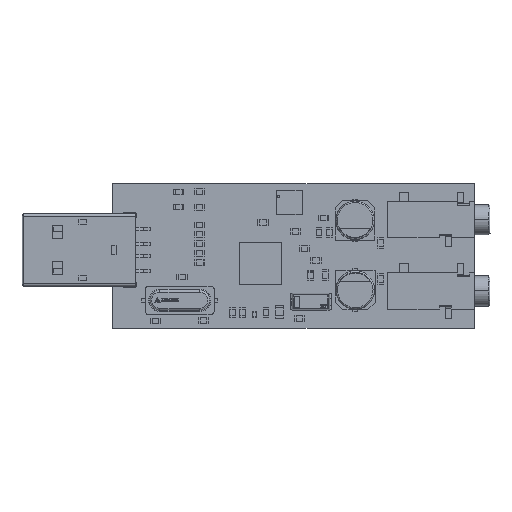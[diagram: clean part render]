
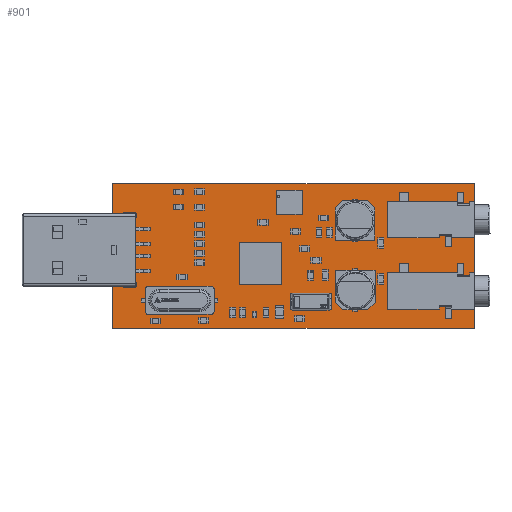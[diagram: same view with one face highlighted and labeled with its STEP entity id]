
A CAD part, top view. The second image highlights one B-rep face of the part: STEP entity #901.
In plain terms, the highlighted planar face has unit normal (0, 0, 1).
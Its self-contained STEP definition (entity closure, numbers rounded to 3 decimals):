
#288 = VERTEX_POINT('',#289);
#289 = CARTESIAN_POINT('',(0.,0.,1.598));
#295 = EDGE_CURVE('',#288,#296,#298,.T.);
#296 = VERTEX_POINT('',#297);
#297 = CARTESIAN_POINT('',(60.,0.,1.598));
#298 = LINE('',#299,#300);
#299 = CARTESIAN_POINT('',(0.,0.,1.598));
#300 = VECTOR('',#301,1.);
#301 = DIRECTION('',(1.,0.,0.));
#326 = EDGE_CURVE('',#296,#327,#329,.T.);
#327 = VERTEX_POINT('',#328);
#328 = CARTESIAN_POINT('',(60.,24.,1.598));
#329 = LINE('',#330,#331);
#330 = CARTESIAN_POINT('',(60.,0.,1.598));
#331 = VECTOR('',#332,1.);
#332 = DIRECTION('',(0.,1.,0.));
#357 = EDGE_CURVE('',#327,#358,#360,.T.);
#358 = VERTEX_POINT('',#359);
#359 = CARTESIAN_POINT('',(0.,24.,1.598));
#360 = LINE('',#361,#362);
#361 = CARTESIAN_POINT('',(60.,24.,1.598));
#362 = VECTOR('',#363,1.);
#363 = DIRECTION('',(-1.,0.,0.));
#388 = EDGE_CURVE('',#358,#288,#389,.T.);
#389 = LINE('',#390,#391);
#390 = CARTESIAN_POINT('',(0.,24.,1.598));
#391 = VECTOR('',#392,1.);
#392 = DIRECTION('',(0.,-1.,0.));
#412 = VERTEX_POINT('',#413);
#413 = CARTESIAN_POINT('',(3.314,10.752,1.598));
#419 = EDGE_CURVE('',#412,#412,#420,.T.);
#420 = CIRCLE('',#421,0.546);
#421 = AXIS2_PLACEMENT_3D('',#422,#423,#424);
#422 = CARTESIAN_POINT('',(2.768,10.752,1.598));
#423 = DIRECTION('',(0.,0.,1.));
#424 = DIRECTION('',(1.,0.,0.));
#445 = VERTEX_POINT('',#446);
#446 = CARTESIAN_POINT('',(2.018,6.785,1.598));
#452 = EDGE_CURVE('',#445,#453,#455,.T.);
#453 = VERTEX_POINT('',#454);
#454 = CARTESIAN_POINT('',(3.518,6.785,1.598));
#455 = LINE('',#456,#457);
#456 = CARTESIAN_POINT('',(2.018,6.785,1.598));
#457 = VECTOR('',#458,1.);
#458 = DIRECTION('',(1.,0.,0.));
#483 = EDGE_CURVE('',#453,#484,#486,.T.);
#484 = VERTEX_POINT('',#485);
#485 = CARTESIAN_POINT('',(3.518,7.785,1.598));
#486 = CIRCLE('',#487,0.5);
#487 = AXIS2_PLACEMENT_3D('',#488,#489,#490);
#488 = CARTESIAN_POINT('',(3.518,7.285,1.598));
#489 = DIRECTION('',(0.,0.,1.));
#490 = DIRECTION('',(0.,-1.,0.));
#516 = EDGE_CURVE('',#484,#517,#519,.T.);
#517 = VERTEX_POINT('',#518);
#518 = CARTESIAN_POINT('',(2.018,7.785,1.598));
#519 = LINE('',#520,#521);
#520 = CARTESIAN_POINT('',(3.518,7.785,1.598));
#521 = VECTOR('',#522,1.);
#522 = DIRECTION('',(-1.,0.,0.));
#547 = EDGE_CURVE('',#517,#445,#548,.T.);
#548 = CIRCLE('',#549,0.5);
#549 = AXIS2_PLACEMENT_3D('',#550,#551,#552);
#550 = CARTESIAN_POINT('',(2.018,7.285,1.598));
#551 = DIRECTION('',(0.,0.,1.));
#552 = DIRECTION('',(0.,1.,0.));
#573 = VERTEX_POINT('',#574);
#574 = CARTESIAN_POINT('',(3.314,15.248,1.598));
#580 = EDGE_CURVE('',#573,#573,#581,.T.);
#581 = CIRCLE('',#582,0.546);
#582 = AXIS2_PLACEMENT_3D('',#583,#584,#585);
#583 = CARTESIAN_POINT('',(2.768,15.248,1.598));
#584 = DIRECTION('',(0.,0.,1.));
#585 = DIRECTION('',(1.,0.,0.));
#606 = VERTEX_POINT('',#607);
#607 = CARTESIAN_POINT('',(2.018,18.215,1.598));
#613 = EDGE_CURVE('',#606,#614,#616,.T.);
#614 = VERTEX_POINT('',#615);
#615 = CARTESIAN_POINT('',(3.518,18.215,1.598));
#616 = LINE('',#617,#618);
#617 = CARTESIAN_POINT('',(2.018,18.215,1.598));
#618 = VECTOR('',#619,1.);
#619 = DIRECTION('',(1.,0.,0.));
#644 = EDGE_CURVE('',#614,#645,#647,.T.);
#645 = VERTEX_POINT('',#646);
#646 = CARTESIAN_POINT('',(3.518,19.215,1.598));
#647 = CIRCLE('',#648,0.5);
#648 = AXIS2_PLACEMENT_3D('',#649,#650,#651);
#649 = CARTESIAN_POINT('',(3.518,18.715,1.598));
#650 = DIRECTION('',(0.,0.,1.));
#651 = DIRECTION('',(0.,-1.,0.));
#677 = EDGE_CURVE('',#645,#678,#680,.T.);
#678 = VERTEX_POINT('',#679);
#679 = CARTESIAN_POINT('',(2.018,19.215,1.598));
#680 = LINE('',#681,#682);
#681 = CARTESIAN_POINT('',(3.518,19.215,1.598));
#682 = VECTOR('',#683,1.);
#683 = DIRECTION('',(-1.,0.,0.));
#708 = EDGE_CURVE('',#678,#606,#709,.T.);
#709 = CIRCLE('',#710,0.5);
#710 = AXIS2_PLACEMENT_3D('',#711,#712,#713);
#711 = CARTESIAN_POINT('',(2.018,18.715,1.598));
#712 = DIRECTION('',(0.,0.,1.));
#713 = DIRECTION('',(0.,1.,0.));
#734 = VERTEX_POINT('',#735);
#735 = CARTESIAN_POINT('',(50.45,6.185,1.598));
#741 = EDGE_CURVE('',#734,#734,#742,.T.);
#742 = CIRCLE('',#743,0.85);
#743 = AXIS2_PLACEMENT_3D('',#744,#745,#746);
#744 = CARTESIAN_POINT('',(49.6,6.185,1.598));
#745 = DIRECTION('',(0.,0.,1.));
#746 = DIRECTION('',(1.,0.,0.));
#767 = VERTEX_POINT('',#768);
#768 = CARTESIAN_POINT('',(57.45,6.185,1.598));
#774 = EDGE_CURVE('',#767,#767,#775,.T.);
#775 = CIRCLE('',#776,0.85);
#776 = AXIS2_PLACEMENT_3D('',#777,#778,#779);
#777 = CARTESIAN_POINT('',(56.6,6.185,1.598));
#778 = DIRECTION('',(0.,0.,1.));
#779 = DIRECTION('',(1.,0.,0.));
#800 = VERTEX_POINT('',#801);
#801 = CARTESIAN_POINT('',(50.45,18.01,1.598));
#807 = EDGE_CURVE('',#800,#800,#808,.T.);
#808 = CIRCLE('',#809,0.85);
#809 = AXIS2_PLACEMENT_3D('',#810,#811,#812);
#810 = CARTESIAN_POINT('',(49.6,18.01,1.598));
#811 = DIRECTION('',(0.,0.,1.));
#812 = DIRECTION('',(1.,0.,0.));
#833 = VERTEX_POINT('',#834);
#834 = CARTESIAN_POINT('',(57.45,18.01,1.598));
#840 = EDGE_CURVE('',#833,#833,#841,.T.);
#841 = CIRCLE('',#842,0.85);
#842 = AXIS2_PLACEMENT_3D('',#843,#844,#845);
#843 = CARTESIAN_POINT('',(56.6,18.01,1.598));
#844 = DIRECTION('',(0.,0.,1.));
#845 = DIRECTION('',(1.,0.,0.));
#901 = ADVANCED_FACE('',(#902,#908,#911,#917,#920,#926,#929,#932,#935),
  #938,.F.);
#902 = FACE_BOUND('',#903,.T.);
#903 = EDGE_LOOP('',(#904,#905,#906,#907));
#904 = ORIENTED_EDGE('',*,*,#295,.T.);
#905 = ORIENTED_EDGE('',*,*,#326,.T.);
#906 = ORIENTED_EDGE('',*,*,#357,.T.);
#907 = ORIENTED_EDGE('',*,*,#388,.T.);
#908 = FACE_BOUND('',#909,.F.);
#909 = EDGE_LOOP('',(#910));
#910 = ORIENTED_EDGE('',*,*,#419,.T.);
#911 = FACE_BOUND('',#912,.F.);
#912 = EDGE_LOOP('',(#913,#914,#915,#916));
#913 = ORIENTED_EDGE('',*,*,#452,.T.);
#914 = ORIENTED_EDGE('',*,*,#483,.T.);
#915 = ORIENTED_EDGE('',*,*,#516,.T.);
#916 = ORIENTED_EDGE('',*,*,#547,.T.);
#917 = FACE_BOUND('',#918,.F.);
#918 = EDGE_LOOP('',(#919));
#919 = ORIENTED_EDGE('',*,*,#580,.T.);
#920 = FACE_BOUND('',#921,.F.);
#921 = EDGE_LOOP('',(#922,#923,#924,#925));
#922 = ORIENTED_EDGE('',*,*,#613,.T.);
#923 = ORIENTED_EDGE('',*,*,#644,.T.);
#924 = ORIENTED_EDGE('',*,*,#677,.T.);
#925 = ORIENTED_EDGE('',*,*,#708,.T.);
#926 = FACE_BOUND('',#927,.F.);
#927 = EDGE_LOOP('',(#928));
#928 = ORIENTED_EDGE('',*,*,#741,.T.);
#929 = FACE_BOUND('',#930,.F.);
#930 = EDGE_LOOP('',(#931));
#931 = ORIENTED_EDGE('',*,*,#774,.T.);
#932 = FACE_BOUND('',#933,.F.);
#933 = EDGE_LOOP('',(#934));
#934 = ORIENTED_EDGE('',*,*,#807,.T.);
#935 = FACE_BOUND('',#936,.F.);
#936 = EDGE_LOOP('',(#937));
#937 = ORIENTED_EDGE('',*,*,#840,.T.);
#938 = PLANE('',#939);
#939 = AXIS2_PLACEMENT_3D('',#940,#941,#942);
#940 = CARTESIAN_POINT('',(0.,0.,1.598));
#941 = DIRECTION('',(0.,0.,-1.));
#942 = DIRECTION('',(-1.,0.,0.));
